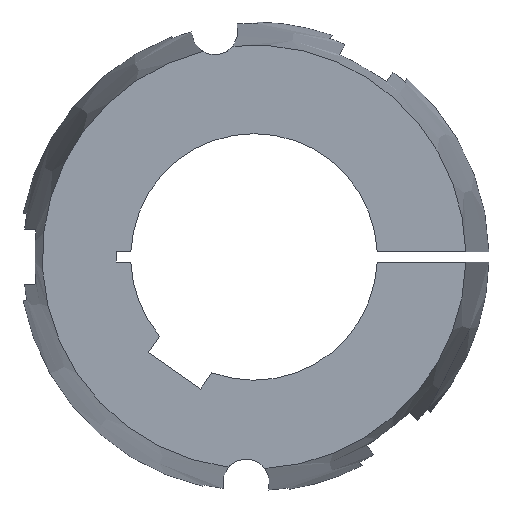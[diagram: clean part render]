
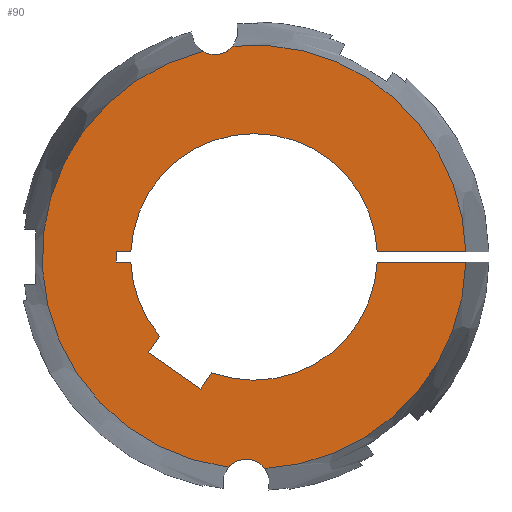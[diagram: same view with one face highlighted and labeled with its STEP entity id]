
A CAD part, left-side view. The second image highlights one B-rep face of the part: STEP entity #90.
In plain terms, the highlighted planar face has unit normal (-1, 0, 0).
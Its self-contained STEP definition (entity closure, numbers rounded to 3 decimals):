
#90 = ADVANCED_FACE( '', ( #140 ), #141, .F. );
#140 = FACE_OUTER_BOUND( '', #208, .T. );
#141 = PLANE( '', #209 );
#208 = EDGE_LOOP( '', ( #369, #370, #371, #372, #373, #374, #375, #376, #377, #378, #379, #380, #381, #382, #383, #384 ) );
#209 = AXIS2_PLACEMENT_3D( '', #385, #386, #387 );
#369 = ORIENTED_EDGE( '', *, *, #548, .F. );
#370 = ORIENTED_EDGE( '', *, *, #601, .F. );
#371 = ORIENTED_EDGE( '', *, *, #570, .T. );
#372 = ORIENTED_EDGE( '', *, *, #583, .T. );
#373 = ORIENTED_EDGE( '', *, *, #581, .T. );
#374 = ORIENTED_EDGE( '', *, *, #578, .T. );
#375 = ORIENTED_EDGE( '', *, *, #587, .T. );
#376 = ORIENTED_EDGE( '', *, *, #602, .T. );
#377 = ORIENTED_EDGE( '', *, *, #603, .T. );
#378 = ORIENTED_EDGE( '', *, *, #604, .T. );
#379 = ORIENTED_EDGE( '', *, *, #605, .T. );
#380 = ORIENTED_EDGE( '', *, *, #606, .T. );
#381 = ORIENTED_EDGE( '', *, *, #572, .T. );
#382 = ORIENTED_EDGE( '', *, *, #607, .F. );
#383 = ORIENTED_EDGE( '', *, *, #551, .F. );
#384 = ORIENTED_EDGE( '', *, *, #608, .F. );
#385 = CARTESIAN_POINT( '', ( -114., 0., 0. ) );
#386 = DIRECTION( '', ( 1., 0., 0. ) );
#387 = DIRECTION( '', ( 0., 1., 0. ) );
#548 = EDGE_CURVE( '', #649, #651, #652, .F. );
#551 = EDGE_CURVE( '', #655, #657, #658, .F. );
#570 = EDGE_CURVE( '', #693, #691, #694, .T. );
#572 = EDGE_CURVE( '', #696, #697, #698, .T. );
#578 = EDGE_CURVE( '', #709, #707, #710, .T. );
#581 = EDGE_CURVE( '', #714, #709, #715, .T. );
#583 = EDGE_CURVE( '', #691, #714, #717, .T. );
#587 = EDGE_CURVE( '', #707, #721, #723, .T. );
#601 = EDGE_CURVE( '', #693, #649, #745, .T. );
#602 = EDGE_CURVE( '', #721, #746, #747, .T. );
#603 = EDGE_CURVE( '', #746, #748, #749, .T. );
#604 = EDGE_CURVE( '', #748, #750, #751, .T. );
#605 = EDGE_CURVE( '', #750, #752, #753, .T. );
#606 = EDGE_CURVE( '', #752, #696, #754, .T. );
#607 = EDGE_CURVE( '', #657, #697, #755, .T. );
#608 = EDGE_CURVE( '', #651, #655, #756, .T. );
#649 = VERTEX_POINT( '', #815 );
#651 = VERTEX_POINT( '', #826 );
#652 = CIRCLE( '', #827, 8.125 );
#655 = VERTEX_POINT( '', #839 );
#657 = VERTEX_POINT( '', #852 );
#658 = CIRCLE( '', #853, 8.125 );
#691 = VERTEX_POINT( '', #920 );
#693 = VERTEX_POINT( '', #923 );
#694 = LINE( '', #924, #925 );
#696 = VERTEX_POINT( '', #933 );
#697 = VERTEX_POINT( '', #934 );
#698 = LINE( '', #935, #936 );
#707 = VERTEX_POINT( '', #954 );
#709 = VERTEX_POINT( '', #957 );
#710 = LINE( '', #958, #959 );
#714 = VERTEX_POINT( '', #965 );
#715 = LINE( '', #966, #967 );
#717 = CIRCLE( '', #970, 42.5 );
#721 = VERTEX_POINT( '', #975 );
#723 = LINE( '', #978, #979 );
#745 = CIRCLE( '', #1004, 73.028 );
#746 = VERTEX_POINT( '', #1005 );
#747 = CIRCLE( '', #1006, 42.5 );
#748 = VERTEX_POINT( '', #1007 );
#749 = LINE( '', #1008, #1009 );
#750 = VERTEX_POINT( '', #1010 );
#751 = LINE( '', #1011, #1012 );
#752 = VERTEX_POINT( '', #1013 );
#753 = LINE( '', #1014, #1015 );
#754 = CIRCLE( '', #1016, 42.5 );
#755 = CIRCLE( '', #1017, 73.028 );
#756 = CIRCLE( '', #1018, 73.028 );
#815 = CARTESIAN_POINT( '', ( -114., -3.751, -72.932 ) );
#826 = CARTESIAN_POINT( '', ( -114., 8.826, -72.493 ) );
#827 = AXIS2_PLACEMENT_3D( '', #1192, #1193, #1194 );
#839 = CARTESIAN_POINT( '', ( -114., 17.661, 70.861 ) );
#852 = CARTESIAN_POINT( '', ( -114., 7.262, 72.666 ) );
#853 = AXIS2_PLACEMENT_3D( '', #1195, #1196, #1197 );
#920 = CARTESIAN_POINT( '', ( -114., -42.464, -1.75 ) );
#923 = CARTESIAN_POINT( '', ( -114., -73.007, -1.75 ) );
#924 = CARTESIAN_POINT( '', ( -114., -81., -1.75 ) );
#925 = VECTOR( '', #1227, 1000. );
#933 = CARTESIAN_POINT( '', ( -114., -42.464, 1.75 ) );
#934 = CARTESIAN_POINT( '', ( -114., -73.007, 1.75 ) );
#935 = CARTESIAN_POINT( '', ( -114., 0., 1.75 ) );
#936 = VECTOR( '', #1228, 1000. );
#954 = CARTESIAN_POINT( '', ( -114., 36.485, -32.928 ) );
#957 = CARTESIAN_POINT( '', ( -114., 18.464, -45.547 ) );
#958 = CARTESIAN_POINT( '', ( -114., 18.464, -45.547 ) );
#959 = VECTOR( '', #1233, 1000. );
#965 = CARTESIAN_POINT( '', ( -114., 14.536, -39.937 ) );
#966 = CARTESIAN_POINT( '', ( -114., 14.536, -39.937 ) );
#967 = VECTOR( '', #1236, 1000. );
#970 = AXIS2_PLACEMENT_3D( '', #1238, #1239, #1240 );
#975 = CARTESIAN_POINT( '', ( -114., 32.557, -27.318 ) );
#978 = CARTESIAN_POINT( '', ( -114., 36.485, -32.928 ) );
#979 = VECTOR( '', #1246, 1000. );
#1004 = AXIS2_PLACEMENT_3D( '', #1280, #1281, #1282 );
#1005 = CARTESIAN_POINT( '', ( -114., 42.464, -1.75 ) );
#1006 = AXIS2_PLACEMENT_3D( '', #1283, #1284, #1285 );
#1007 = CARTESIAN_POINT( '', ( -114., 47.5, -1.75 ) );
#1008 = CARTESIAN_POINT( '', ( -114., 0., -1.75 ) );
#1009 = VECTOR( '', #1286, 1000. );
#1010 = CARTESIAN_POINT( '', ( -114., 47.5, 1.75 ) );
#1011 = CARTESIAN_POINT( '', ( -114., 47.5, -1.75 ) );
#1012 = VECTOR( '', #1287, 1000. );
#1013 = CARTESIAN_POINT( '', ( -114., 42.464, 1.75 ) );
#1014 = CARTESIAN_POINT( '', ( -114., 47.5, 1.75 ) );
#1015 = VECTOR( '', #1288, 1000. );
#1016 = AXIS2_PLACEMENT_3D( '', #1289, #1290, #1291 );
#1017 = AXIS2_PLACEMENT_3D( '', #1292, #1293, #1294 );
#1018 = AXIS2_PLACEMENT_3D( '', #1295, #1296, #1297 );
#1192 = CARTESIAN_POINT( '', ( -114., 2.717, -77.85 ) );
#1193 = DIRECTION( '', ( 1., 0., 0. ) );
#1194 = DIRECTION( '', ( 0., 1., 0. ) );
#1195 = CARTESIAN_POINT( '', ( -114., 13.519, 77.85 ) );
#1196 = DIRECTION( '', ( 1., 0., 0. ) );
#1197 = DIRECTION( '', ( 0., 1., 0. ) );
#1227 = DIRECTION( '', ( 0., 1., 0. ) );
#1228 = DIRECTION( '', ( 0., -1., 0. ) );
#1233 = DIRECTION( '', ( 0., 0.819, 0.574 ) );
#1236 = DIRECTION( '', ( 0., 0.574, -0.819 ) );
#1238 = CARTESIAN_POINT( '', ( -114., 0., 0. ) );
#1239 = DIRECTION( '', ( 1., 0., 0. ) );
#1240 = DIRECTION( '', ( 0., 0., -1. ) );
#1246 = DIRECTION( '', ( 0., -0.574, 0.819 ) );
#1280 = CARTESIAN_POINT( '', ( -114., 0., 0. ) );
#1281 = DIRECTION( '', ( 1., 0., 0. ) );
#1282 = DIRECTION( '', ( 0., 1., 0. ) );
#1283 = CARTESIAN_POINT( '', ( -114., 0., 0. ) );
#1284 = DIRECTION( '', ( 1., 0., 0. ) );
#1285 = DIRECTION( '', ( 0., 0., -1. ) );
#1286 = DIRECTION( '', ( 0., 1., 0. ) );
#1287 = DIRECTION( '', ( 0., 0., 1. ) );
#1288 = DIRECTION( '', ( 0., -1., 0. ) );
#1289 = CARTESIAN_POINT( '', ( -114., 0., 0. ) );
#1290 = DIRECTION( '', ( 1., 0., 0. ) );
#1291 = DIRECTION( '', ( 0., 0., -1. ) );
#1292 = CARTESIAN_POINT( '', ( -114., 0., 0. ) );
#1293 = DIRECTION( '', ( 1., 0., 0. ) );
#1294 = DIRECTION( '', ( 0., 1., 0. ) );
#1295 = CARTESIAN_POINT( '', ( -114., 0., 0. ) );
#1296 = DIRECTION( '', ( 1., 0., 0. ) );
#1297 = DIRECTION( '', ( 0., 1., 0. ) );
